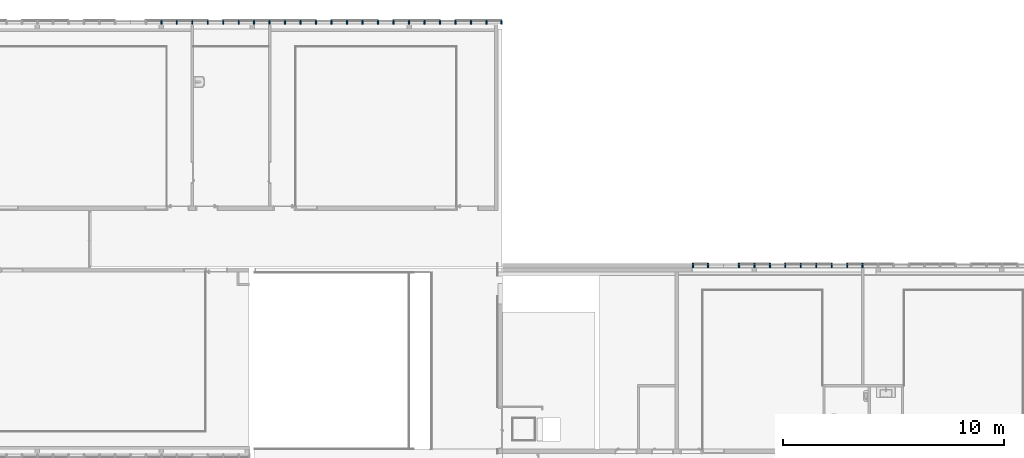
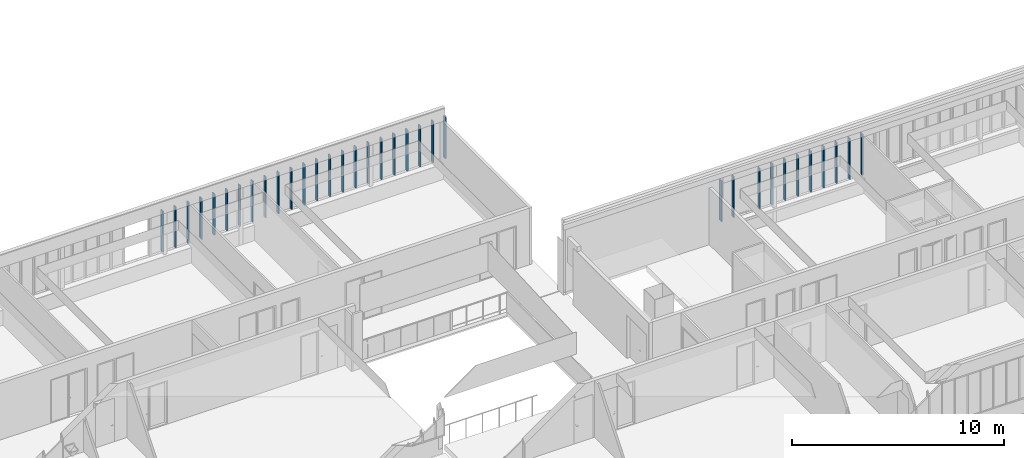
# One storey, part 6 of 87: 34 members, 2 elements without a shape of their own.
"""IFC2X3 building model written with IfcOpenShell, lengths in centimetres."""

from ifc_helpers import new_model, entity, si_unit, converted_unit, derived_unit, direction, frame, origin, place, context, subcontext, project, spatial, polyline, outline, extrude, source, transform, mapped, material, type_object, type_shapes, element, aggregate, save


model = new_model("IFC2X3")

# Units and contexts
model_context = context("Model", 3, precision=0.001, world=origin(), true_north=direction((6.12303176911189e-17, 1.0)))
body_context = subcontext(model_context, "Body", "Model", "MODEL_VIEW")
ifc_project = project(units=[si_unit("LENGTHUNIT", "METRE", prefix="CENTI"), si_unit("AREAUNIT", "SQUARE_METRE"), si_unit("VOLUMEUNIT", "CUBIC_METRE"), converted_unit("PLANEANGLEUNIT", "DEGREE", entity("IfcRatioMeasure", 0.0174532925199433), si_unit("PLANEANGLEUNIT", "RADIAN"), dimensions=[0, 0, 0, 0, 0, 0, 0]), si_unit("MASSUNIT", "GRAM", prefix="KILO"), derived_unit("MASSDENSITYUNIT", [(si_unit("MASSUNIT", "GRAM", prefix="KILO"), 1), (si_unit("LENGTHUNIT", "METRE"), -3)]), si_unit("TIMEUNIT", "SECOND"), si_unit("FREQUENCYUNIT", "HERTZ"), si_unit("THERMODYNAMICTEMPERATUREUNIT", "DEGREE_CELSIUS"), derived_unit("THERMALTRANSMITTANCEUNIT", [(si_unit("MASSUNIT", "GRAM", prefix="KILO"), 1), (si_unit("THERMODYNAMICTEMPERATUREUNIT", "KELVIN"), -1), (si_unit("TIMEUNIT", "SECOND"), -3)]), derived_unit("VOLUMETRICFLOWRATEUNIT", [(si_unit("LENGTHUNIT", "METRE"), 3), (si_unit("TIMEUNIT", "SECOND"), -1)]), si_unit("ELECTRICCURRENTUNIT", "AMPERE"), si_unit("ELECTRICVOLTAGEUNIT", "VOLT"), si_unit("POWERUNIT", "WATT"), si_unit("FORCEUNIT", "NEWTON", prefix="KILO"), si_unit("ILLUMINANCEUNIT", "LUX"), si_unit("LUMINOUSFLUXUNIT", "LUMEN"), si_unit("LUMINOUSINTENSITYUNIT", "CANDELA"), derived_unit("USERDEFINED", [(si_unit("MASSUNIT", "GRAM", prefix="KILO"), -1), (si_unit("LENGTHUNIT", "METRE"), -2), (si_unit("TIMEUNIT", "SECOND"), 3), (si_unit("LUMINOUSFLUXUNIT", "LUMEN"), 1)]), derived_unit("LINEARVELOCITYUNIT", [(si_unit("LENGTHUNIT", "METRE"), 1), (si_unit("TIMEUNIT", "SECOND"), -1)]), si_unit("PRESSUREUNIT", "PASCAL"), derived_unit("USERDEFINED", [(si_unit("LENGTHUNIT", "METRE"), -2), (si_unit("MASSUNIT", "GRAM", prefix="KILO"), 1), (si_unit("TIMEUNIT", "SECOND"), -2)])], contexts=[model_context])

# Site, building, storey
site_placement = place(None, frame((-2781.94577612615, 7442.24238424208, 0.0)))
site = spatial("IfcSite", under=ifc_project, at=site_placement, Name="Default", CompositionType="ELEMENT")
building_placement = place(site_placement, origin())
building = spatial("IfcBuilding", under=site, at=building_placement, CompositionType="ELEMENT")
storey_placement = place(building_placement, frame((0.0, 0.0, 774.0)))
storey = spatial("IfcBuildingStorey", under=building, at=storey_placement, Name="TR - N02 - ARCH", CompositionType="ELEMENT", Elevation=774.0)

# Curtain wall, members
curtain_wall_type = type_object("IfcCurtainWallType", Name="Mur-rideau:07 - mur rideau trame 70cm", PredefinedType="NOTDEFINED")
curtain_wall_1_placement = place(storey_placement, frame((0.0, 0.0, -774.0)))
curtain_wall_1 = element("IfcCurtainWall", 1, at=curtain_wall_1_placement, inside=storey, type_object=curtain_wall_type, Name="Mur-rideau:07 - mur rideau trame 70cm", ObjectType="Mur-rideau:07 - mur rideau trame 70cm")
ifc_material = material(Name="Aluminium")
member_type_1 = type_object("IfcMemberType", Name="150 x 25mm Détails", PredefinedType="MEMBER")
shared_shape_1 = source(origin(), body_context, "Body", "SweptSolid", [
    extrude(outline(polyline([(-5.6666666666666, -3.25), (-3.66666666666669, -3.25), (-3.66666666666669, -0.868749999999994), (-0.166666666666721, -0.868749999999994), (-0.166666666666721, -3.25000000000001), (13.3333333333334, -3.24999999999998), (13.3333333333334, 3.25000000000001), (-0.166666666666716, 3.25000000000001), (-0.166666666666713, 0.868749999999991), (-3.66666666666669, 0.868749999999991), (-3.66666666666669, 3.24999999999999), (-5.6666666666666, 3.24999999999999), (-5.6666666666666, -3.25)])), frame((-3.24999999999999, -1.96666666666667, -236.0), z_axis=(0.0, 0.0, 1.0), x_axis=(0.0, -1.0, 0.0)), (0.0, 0.0, 1.0), 236.0),
])
type_shapes(member_type_1, [shared_shape_1])
member_1_placement = place(storey_placement, frame((-3649.49987757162, 26.2000000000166, 326.0)))
member_1 = element("IfcMember", 2, at=member_1_placement, type_object=member_type_1, material=ifc_material, Name="Meneau rectangulaire:150 x 25mm Détails", ObjectType="Meneau rectangulaire:150 x 25mm Détails", context=body_context, shape_type="MappedRepresentation", body=[
    mapped(shared_shape_1, transform((0.0, 0.0, 0.0), scale=1.0)),
])
member_type_2 = type_object("IfcMemberType", Name="150 x 25mm Détails", PredefinedType="MEMBER")
shared_shape_2 = source(origin(), body_context, "Body", "SweptSolid", [
    extrude(outline(polyline([(-5.66666666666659, -3.24999999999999), (-3.66666666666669, -3.24999999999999), (-3.66666666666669, -0.86874999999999), (-0.166666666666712, -0.86874999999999), (-0.166666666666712, -3.25000000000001), (13.3333333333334, -3.25000000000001), (13.3333333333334, 3.24999999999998), (-0.166666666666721, 3.24999999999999), (-0.166666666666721, 0.868749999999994), (-3.66666666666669, 0.868749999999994), (-3.66666666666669, 3.25), (-5.66666666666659, 3.25), (-5.66666666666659, -3.24999999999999)])), frame((0.0, -1.96666666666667, -236.0), z_axis=(0.0, 0.0, 1.0), x_axis=(0.0, -1.0, 0.0)), (0.0, 0.0, 1.0), 236.0),
])
type_shapes(member_type_2, [shared_shape_2])
member_2_placement = place(storey_placement, frame((-3719.4998776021, 26.2000000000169, 90.0), z_axis=(0.0, 0.0, -1.0), x_axis=(-1.0, 0.0, 0.0)))
member_2 = element("IfcMember", 3, at=member_2_placement, type_object=member_type_2, material=ifc_material, Name="Meneau rectangulaire:150 x 25mm Détails", ObjectType="Meneau rectangulaire:150 x 25mm Détails", context=body_context, shape_type="MappedRepresentation", body=[
    mapped(shared_shape_2, transform((0.0, 0.0, 0.0), scale=1.0)),
])
member_3_placement = place(storey_placement, frame((-3789.4998776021, 26.2000000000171, 90.0), z_axis=(0.0, 0.0, -1.0), x_axis=(-1.0, 0.0, 0.0)))
member_3 = element("IfcMember", 4, at=member_3_placement, type_object=member_type_2, material=ifc_material, Name="Meneau rectangulaire:150 x 25mm Détails", ObjectType="Meneau rectangulaire:150 x 25mm Détails", context=body_context, shape_type="MappedRepresentation", body=[
    mapped(shared_shape_2, transform((0.0, 0.0, 0.0), scale=1.0)),
])
member_4_placement = place(storey_placement, frame((-3859.4998776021, 26.2000000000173, 90.0), z_axis=(0.0, 0.0, -1.0), x_axis=(-1.0, 0.0, 0.0)))
member_4 = element("IfcMember", 5, at=member_4_placement, type_object=member_type_2, material=ifc_material, Name="Meneau rectangulaire:150 x 25mm Détails", ObjectType="Meneau rectangulaire:150 x 25mm Détails", context=body_context, shape_type="MappedRepresentation", body=[
    mapped(shared_shape_2, transform((0.0, 0.0, 0.0), scale=1.0)),
])
member_5_placement = place(storey_placement, frame((-3929.4998776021, 26.2000000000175, 90.0), z_axis=(0.0, 0.0, -1.0), x_axis=(-1.0, 0.0, 0.0)))
member_5 = element("IfcMember", 6, at=member_5_placement, type_object=member_type_2, material=ifc_material, Name="Meneau rectangulaire:150 x 25mm Détails", ObjectType="Meneau rectangulaire:150 x 25mm Détails", context=body_context, shape_type="MappedRepresentation", body=[
    mapped(shared_shape_2, transform((0.0, 0.0, 0.0), scale=1.0)),
])
member_6_placement = place(storey_placement, frame((-3999.4998776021, 26.2000000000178, 90.0), z_axis=(0.0, 0.0, -1.0), x_axis=(-1.0, 0.0, 0.0)))
member_6 = element("IfcMember", 7, at=member_6_placement, type_object=member_type_2, material=ifc_material, Name="Meneau rectangulaire:150 x 25mm Détails", ObjectType="Meneau rectangulaire:150 x 25mm Détails", context=body_context, shape_type="MappedRepresentation", body=[
    mapped(shared_shape_2, transform((0.0, 0.0, 0.0), scale=1.0)),
])
member_7_placement = place(storey_placement, frame((-4069.4998776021, 26.200000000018, 90.0), z_axis=(0.0, 0.0, -1.0), x_axis=(-1.0, 0.0, 0.0)))
member_7 = element("IfcMember", 8, at=member_7_placement, type_object=member_type_2, material=ifc_material, Name="Meneau rectangulaire:150 x 25mm Détails", ObjectType="Meneau rectangulaire:150 x 25mm Détails", context=body_context, shape_type="MappedRepresentation", body=[
    mapped(shared_shape_2, transform((0.0, 0.0, 0.0), scale=1.0)),
])
member_8_placement = place(storey_placement, frame((-4139.4998776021, 26.2000000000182, 90.0), z_axis=(0.0, 0.0, -1.0), x_axis=(-1.0, 0.0, 0.0)))
member_8 = element("IfcMember", 9, at=member_8_placement, type_object=member_type_2, material=ifc_material, Name="Meneau rectangulaire:150 x 25mm Détails", ObjectType="Meneau rectangulaire:150 x 25mm Détails", context=body_context, shape_type="MappedRepresentation", body=[
    mapped(shared_shape_2, transform((0.0, 0.0, 0.0), scale=1.0)),
])
member_9_placement = place(storey_placement, frame((-4209.4998776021, 26.2000000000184, 90.0), z_axis=(0.0, 0.0, -1.0), x_axis=(-1.0, 0.0, 0.0)))
member_9 = element("IfcMember", 10, at=member_9_placement, type_object=member_type_2, material=ifc_material, Name="Meneau rectangulaire:150 x 25mm Détails", ObjectType="Meneau rectangulaire:150 x 25mm Détails", context=body_context, shape_type="MappedRepresentation", body=[
    mapped(shared_shape_2, transform((0.0, 0.0, 0.0), scale=1.0)),
])
member_10_placement = place(storey_placement, frame((-4279.4998776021, 26.2000000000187, 90.0), z_axis=(0.0, 0.0, -1.0), x_axis=(-1.0, 0.0, 0.0)))
member_10 = element("IfcMember", 11, at=member_10_placement, type_object=member_type_2, material=ifc_material, Name="Meneau rectangulaire:150 x 25mm Détails", ObjectType="Meneau rectangulaire:150 x 25mm Détails", context=body_context, shape_type="MappedRepresentation", body=[
    mapped(shared_shape_2, transform((0.0, 0.0, 0.0), scale=1.0)),
])
member_11_placement = place(storey_placement, frame((-4349.4998776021, 26.2000000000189, 90.0), z_axis=(0.0, 0.0, -1.0), x_axis=(-1.0, 0.0, 0.0)))
member_11 = element("IfcMember", 12, at=member_11_placement, type_object=member_type_2, material=ifc_material, Name="Meneau rectangulaire:150 x 25mm Détails", ObjectType="Meneau rectangulaire:150 x 25mm Détails", context=body_context, shape_type="MappedRepresentation", body=[
    mapped(shared_shape_2, transform((0.0, 0.0, 0.0), scale=1.0)),
])
member_12_placement = place(storey_placement, frame((-4419.4998776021, 26.2000000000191, 90.0), z_axis=(0.0, 0.0, -1.0), x_axis=(-1.0, 0.0, 0.0)))
member_12 = element("IfcMember", 13, at=member_12_placement, type_object=member_type_2, material=ifc_material, Name="Meneau rectangulaire:150 x 25mm Détails", ObjectType="Meneau rectangulaire:150 x 25mm Détails", context=body_context, shape_type="MappedRepresentation", body=[
    mapped(shared_shape_2, transform((0.0, 0.0, 0.0), scale=1.0)),
])
member_13_placement = place(storey_placement, frame((-4489.4998776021, 26.2000000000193, 90.0), z_axis=(0.0, 0.0, -1.0), x_axis=(-1.0, 0.0, 0.0)))
member_13 = element("IfcMember", 14, at=member_13_placement, type_object=member_type_2, material=ifc_material, Name="Meneau rectangulaire:150 x 25mm Détails", ObjectType="Meneau rectangulaire:150 x 25mm Détails", context=body_context, shape_type="MappedRepresentation", body=[
    mapped(shared_shape_2, transform((0.0, 0.0, 0.0), scale=1.0)),
])
member_14_placement = place(storey_placement, frame((-4559.4998776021, 26.2000000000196, 90.0), z_axis=(0.0, 0.0, -1.0), x_axis=(-1.0, 0.0, 0.0)))
member_14 = element("IfcMember", 15, at=member_14_placement, type_object=member_type_2, material=ifc_material, Name="Meneau rectangulaire:150 x 25mm Détails", ObjectType="Meneau rectangulaire:150 x 25mm Détails", context=body_context, shape_type="MappedRepresentation", body=[
    mapped(shared_shape_2, transform((0.0, 0.0, 0.0), scale=1.0)),
])
member_15_placement = place(storey_placement, frame((-4629.4998776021, 26.2000000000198, 90.0), z_axis=(0.0, 0.0, -1.0), x_axis=(-1.0, 0.0, 0.0)))
member_15 = element("IfcMember", 16, at=member_15_placement, type_object=member_type_2, material=ifc_material, Name="Meneau rectangulaire:150 x 25mm Détails", ObjectType="Meneau rectangulaire:150 x 25mm Détails", context=body_context, shape_type="MappedRepresentation", body=[
    mapped(shared_shape_2, transform((0.0, 0.0, 0.0), scale=1.0)),
])
member_16_placement = place(storey_placement, frame((-4699.4998776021, 26.20000000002, 90.0), z_axis=(0.0, 0.0, -1.0), x_axis=(-1.0, 0.0, 0.0)))
member_16 = element("IfcMember", 17, at=member_16_placement, type_object=member_type_2, material=ifc_material, Name="Meneau rectangulaire:150 x 25mm Détails", ObjectType="Meneau rectangulaire:150 x 25mm Détails", context=body_context, shape_type="MappedRepresentation", body=[
    mapped(shared_shape_2, transform((0.0, 0.0, 0.0), scale=1.0)),
])
member_17_placement = place(storey_placement, frame((-4769.4998776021, 26.2000000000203, 90.0), z_axis=(0.0, 0.0, -1.0), x_axis=(-1.0, 0.0, 0.0)))
member_17 = element("IfcMember", 18, at=member_17_placement, type_object=member_type_2, material=ifc_material, Name="Meneau rectangulaire:150 x 25mm Détails", ObjectType="Meneau rectangulaire:150 x 25mm Détails", context=body_context, shape_type="MappedRepresentation", body=[
    mapped(shared_shape_2, transform((0.0, 0.0, 0.0), scale=1.0)),
])
member_18_placement = place(storey_placement, frame((-4979.4998776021, 26.2000000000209, 90.0), z_axis=(0.0, 0.0, -1.0), x_axis=(-1.0, 0.0, 0.0)))
member_18 = element("IfcMember", 19, at=member_18_placement, type_object=member_type_2, material=ifc_material, Name="Meneau rectangulaire:150 x 25mm Détails", ObjectType="Meneau rectangulaire:150 x 25mm Détails", context=body_context, shape_type="MappedRepresentation", body=[
    mapped(shared_shape_2, transform((0.0, 0.0, 0.0), scale=1.0)),
])
member_19_placement = place(storey_placement, frame((-5049.4998776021, 26.2000000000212, 90.0), z_axis=(0.0, 0.0, -1.0), x_axis=(-1.0, 0.0, 0.0)))
member_19 = element("IfcMember", 20, at=member_19_placement, type_object=member_type_2, material=ifc_material, Name="Meneau rectangulaire:150 x 25mm Détails", ObjectType="Meneau rectangulaire:150 x 25mm Détails", context=body_context, shape_type="MappedRepresentation", body=[
    mapped(shared_shape_2, transform((0.0, 0.0, 0.0), scale=1.0)),
])
member_20_placement = place(storey_placement, frame((-5119.4998776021, 26.2000000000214, 90.0), z_axis=(0.0, 0.0, -1.0), x_axis=(-1.0, 0.0, 0.0)))
member_20 = element("IfcMember", 21, at=member_20_placement, type_object=member_type_2, material=ifc_material, Name="Meneau rectangulaire:150 x 25mm Détails", ObjectType="Meneau rectangulaire:150 x 25mm Détails", context=body_context, shape_type="MappedRepresentation", body=[
    mapped(shared_shape_2, transform((0.0, 0.0, 0.0), scale=1.0)),
])
member_21_placement = place(storey_placement, frame((-5189.4998776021, 26.2000000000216, 90.0), z_axis=(0.0, 0.0, -1.0), x_axis=(-1.0, 0.0, 0.0)))
member_21 = element("IfcMember", 22, at=member_21_placement, type_object=member_type_2, material=ifc_material, Name="Meneau rectangulaire:150 x 25mm Détails", ObjectType="Meneau rectangulaire:150 x 25mm Détails", context=body_context, shape_type="MappedRepresentation", body=[
    mapped(shared_shape_2, transform((0.0, 0.0, 0.0), scale=1.0)),
])
member_22_placement = place(storey_placement, frame((-4839.4998776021, 26.2000000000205, 90.0), z_axis=(0.0, 0.0, -1.0), x_axis=(-1.0, 0.0, 0.0)))
member_22 = element("IfcMember", 23, at=member_22_placement, type_object=member_type_2, material=ifc_material, Name="Meneau rectangulaire:150 x 25mm Détails", ObjectType="Meneau rectangulaire:150 x 25mm Détails", context=body_context, shape_type="MappedRepresentation", body=[
    mapped(shared_shape_2, transform((0.0, 0.0, 0.0), scale=1.0)),
])
member_23_placement = place(storey_placement, frame((-4909.4998776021, 26.2000000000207, 90.0), z_axis=(0.0, 0.0, -1.0), x_axis=(-1.0, 0.0, 0.0)))
member_23 = element("IfcMember", 24, at=member_23_placement, type_object=member_type_2, material=ifc_material, Name="Meneau rectangulaire:150 x 25mm Détails", ObjectType="Meneau rectangulaire:150 x 25mm Détails", context=body_context, shape_type="MappedRepresentation", body=[
    mapped(shared_shape_2, transform((0.0, 0.0, 0.0), scale=1.0)),
])
aggregate(curtain_wall_1, [member_1, member_2, member_3, member_4, member_5, member_6, member_7, member_8, member_9, member_10, member_11, member_12, member_13, member_14, member_15, member_16, member_17, member_18, member_19, member_20, member_21, member_22, member_23])

curtain_wall_2_placement = place(storey_placement, frame((0.0, 0.0, -774.0)))
curtain_wall_2 = element("IfcCurtainWall", 25, at=curtain_wall_2_placement, inside=storey, type_object=curtain_wall_type, Name="Mur-rideau:07 - mur rideau trame 70cm", ObjectType="Mur-rideau:07 - mur rideau trame 70cm")
member_type_3 = type_object("IfcMemberType", Name="150 x 25mm Détails", PredefinedType="MEMBER")
shared_shape_3 = source(origin(), body_context, "Body", "SweptSolid", [
    extrude(outline(polyline([(-13.3333333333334, -3.24999999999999), (0.166666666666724, -3.24999999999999), (0.166666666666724, -0.868749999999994), (3.66666666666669, -0.868749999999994), (3.66666666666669, -3.25), (5.6666666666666, -3.25), (5.6666666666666, 3.24999999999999), (3.66666666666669, 3.24999999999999), (3.66666666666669, 0.86874999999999), (0.166666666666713, 0.86874999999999), (0.166666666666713, 3.25000000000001), (-13.3333333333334, 3.25000000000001), (-13.3333333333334, -3.24999999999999)])), frame((-3.24999999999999, 1.96666666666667, -236.0), z_axis=(0.0, 0.0, 1.0), x_axis=(0.0, -1.0, 0.0)), (0.0, 0.0, 1.0), 236.0),
])
type_shapes(member_type_3, [shared_shape_3])
member_24_placement = place(storey_placement, frame((-2789.29988287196, -1073.7999999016, 326.0), z_axis=(0.0, 0.0, 1.0), x_axis=(-1.0, 0.0, 0.0)))
member_24 = element("IfcMember", 26, at=member_24_placement, type_object=member_type_3, material=ifc_material, Name="Meneau rectangulaire:150 x 25mm Détails", ObjectType="Meneau rectangulaire:150 x 25mm Détails", context=body_context, shape_type="MappedRepresentation", body=[
    mapped(shared_shape_3, transform((0.0, 0.0, 0.0), scale=1.0)),
])
member_type_4 = type_object("IfcMemberType", Name="150 x 25mm Détails", PredefinedType="MEMBER")
shared_shape_4 = source(origin(), body_context, "Body", "SweptSolid", [
    extrude(outline(polyline([(-13.3333333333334, -3.25000000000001), (0.166666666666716, -3.25000000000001), (0.166666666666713, -0.86874999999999), (3.66666666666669, -0.86874999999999), (3.66666666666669, -3.24999999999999), (5.66666666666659, -3.24999999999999), (5.66666666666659, 3.25), (3.66666666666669, 3.25), (3.66666666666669, 0.868749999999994), (0.166666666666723, 0.868749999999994), (0.166666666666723, 3.25000000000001), (-13.3333333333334, 3.24999999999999), (-13.3333333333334, -3.25000000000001)])), frame((0.0, 1.96666666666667, -236.0), z_axis=(0.0, 0.0, 1.0), x_axis=(0.0, -1.0, 0.0)), (0.0, 0.0, 1.0), 236.0),
])
type_shapes(member_type_4, [shared_shape_4])
member_25_placement = place(storey_placement, frame((-2719.29988284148, -1073.7999999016, 90.0), z_axis=(0.0, 0.0, -1.0), x_axis=(1.0, 0.0, 0.0)))
member_25 = element("IfcMember", 27, at=member_25_placement, type_object=member_type_4, material=ifc_material, Name="Meneau rectangulaire:150 x 25mm Détails", ObjectType="Meneau rectangulaire:150 x 25mm Détails", context=body_context, shape_type="MappedRepresentation", body=[
    mapped(shared_shape_4, transform((0.0, 0.0, 0.0), scale=1.0)),
])
member_26_placement = place(storey_placement, frame((-2579.29988284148, -1073.7999999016, 90.0), z_axis=(0.0, 0.0, -1.0), x_axis=(1.0, 0.0, 0.0)))
member_26 = element("IfcMember", 28, at=member_26_placement, type_object=member_type_4, material=ifc_material, Name="Meneau rectangulaire:150 x 25mm Détails", ObjectType="Meneau rectangulaire:150 x 25mm Détails", context=body_context, shape_type="MappedRepresentation", body=[
    mapped(shared_shape_4, transform((0.0, 0.0, 0.0), scale=1.0)),
])
member_27_placement = place(storey_placement, frame((-2509.29988284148, -1073.7999999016, 90.0), z_axis=(0.0, 0.0, -1.0), x_axis=(1.0, 0.0, 0.0)))
member_27 = element("IfcMember", 29, at=member_27_placement, type_object=member_type_4, material=ifc_material, Name="Meneau rectangulaire:150 x 25mm Détails", ObjectType="Meneau rectangulaire:150 x 25mm Détails", context=body_context, shape_type="MappedRepresentation", body=[
    mapped(shared_shape_4, transform((0.0, 0.0, 0.0), scale=1.0)),
])
member_28_placement = place(storey_placement, frame((-2439.29988284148, -1073.7999999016, 90.0), z_axis=(0.0, 0.0, -1.0), x_axis=(1.0, 0.0, 0.0)))
member_28 = element("IfcMember", 30, at=member_28_placement, type_object=member_type_4, material=ifc_material, Name="Meneau rectangulaire:150 x 25mm Détails", ObjectType="Meneau rectangulaire:150 x 25mm Détails", context=body_context, shape_type="MappedRepresentation", body=[
    mapped(shared_shape_4, transform((0.0, 0.0, 0.0), scale=1.0)),
])
member_29_placement = place(storey_placement, frame((-2369.29988284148, -1073.7999999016, 90.0), z_axis=(0.0, 0.0, -1.0), x_axis=(1.0, 0.0, 0.0)))
member_29 = element("IfcMember", 31, at=member_29_placement, type_object=member_type_4, material=ifc_material, Name="Meneau rectangulaire:150 x 25mm Détails", ObjectType="Meneau rectangulaire:150 x 25mm Détails", context=body_context, shape_type="MappedRepresentation", body=[
    mapped(shared_shape_4, transform((0.0, 0.0, 0.0), scale=1.0)),
])
member_30_placement = place(storey_placement, frame((-2299.29988284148, -1073.7999999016, 90.0), z_axis=(0.0, 0.0, -1.0), x_axis=(1.0, 0.0, 0.0)))
member_30 = element("IfcMember", 32, at=member_30_placement, type_object=member_type_4, material=ifc_material, Name="Meneau rectangulaire:150 x 25mm Détails", ObjectType="Meneau rectangulaire:150 x 25mm Détails", context=body_context, shape_type="MappedRepresentation", body=[
    mapped(shared_shape_4, transform((0.0, 0.0, 0.0), scale=1.0)),
])
member_31_placement = place(storey_placement, frame((-2229.29988284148, -1073.7999999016, 90.0), z_axis=(0.0, 0.0, -1.0), x_axis=(1.0, 0.0, 0.0)))
member_31 = element("IfcMember", 33, at=member_31_placement, type_object=member_type_4, material=ifc_material, Name="Meneau rectangulaire:150 x 25mm Détails", ObjectType="Meneau rectangulaire:150 x 25mm Détails", context=body_context, shape_type="MappedRepresentation", body=[
    mapped(shared_shape_4, transform((0.0, 0.0, 0.0), scale=1.0)),
])
member_32_placement = place(storey_placement, frame((-2159.29988284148, -1073.7999999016, 90.0), z_axis=(0.0, 0.0, -1.0), x_axis=(1.0, 0.0, 0.0)))
member_32 = element("IfcMember", 34, at=member_32_placement, type_object=member_type_4, material=ifc_material, Name="Meneau rectangulaire:150 x 25mm Détails", ObjectType="Meneau rectangulaire:150 x 25mm Détails", context=body_context, shape_type="MappedRepresentation", body=[
    mapped(shared_shape_4, transform((0.0, 0.0, 0.0), scale=1.0)),
])
member_33_placement = place(storey_placement, frame((-2089.29988284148, -1073.7999999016, 90.0), z_axis=(0.0, 0.0, -1.0), x_axis=(1.0, 0.0, 0.0)))
member_33 = element("IfcMember", 35, at=member_33_placement, type_object=member_type_4, material=ifc_material, Name="Meneau rectangulaire:150 x 25mm Détails", ObjectType="Meneau rectangulaire:150 x 25mm Détails", context=body_context, shape_type="MappedRepresentation", body=[
    mapped(shared_shape_4, transform((0.0, 0.0, 0.0), scale=1.0)),
])
member_34_placement = place(storey_placement, frame((-2019.29988284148, -1073.7999999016, 90.0), z_axis=(0.0, 0.0, -1.0), x_axis=(1.0, 0.0, 0.0)))
member_34 = element("IfcMember", 36, at=member_34_placement, type_object=member_type_4, material=ifc_material, Name="Meneau rectangulaire:150 x 25mm Détails", ObjectType="Meneau rectangulaire:150 x 25mm Détails", context=body_context, shape_type="MappedRepresentation", body=[
    mapped(shared_shape_4, transform((0.0, 0.0, 0.0), scale=1.0)),
])
aggregate(curtain_wall_2, [member_24, member_25, member_26, member_27, member_28, member_29, member_30, member_31, member_32, member_33, member_34])

save(model, "model.ifc")
